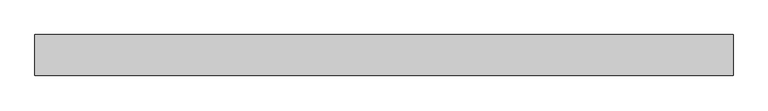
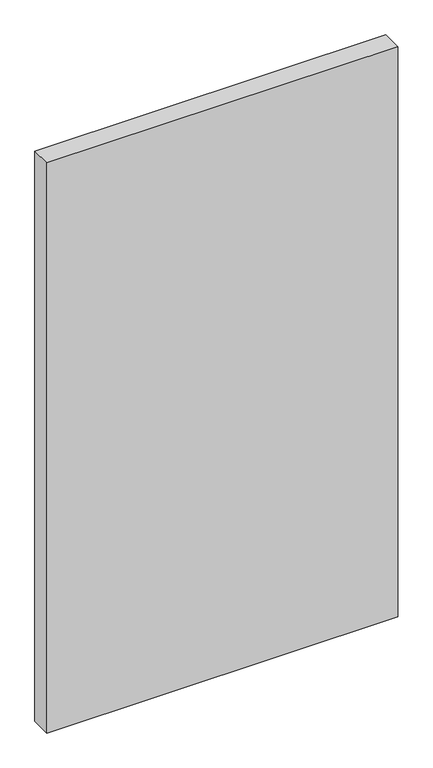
"""IFC4 building model written with IfcOpenShell, lengths in millimetres: plate geometry, Пустая системная панель : Пустая системная панель."""

import ifcopenshell
import ifcopenshell.guid

model = None  # the IFC model being written
_history = None  # IfcOwnerHistory: only IFC2X3 demands one
_inside = {}  # id of a spatial element -> (the spatial element, [elements in it])
_under = {}  # id of a project, library or spatial element -> (it, [spatial elements below it])
_declared = {}  # id of a project -> (the project, [libraries it declares])
_typed = {}  # id of a type object -> (the type object, [elements of that type])
_made_of = {}  # id of a material, layer set ... -> (it, [elements and type objects made of it])


def new_model(schema):
    """Start an empty IFC model of exactly this schema.

    Asked for "IFC4X3", IfcOpenShell would pick the latest addendum, in which some entities
    have other attributes; the version numbers below select the first issue.
    IFC2X3 requires an IfcOwnerHistory on every rooted entity: one is made here for all.
    """
    global model, _history
    if schema == "IFC4X3":
        model = ifcopenshell.file(schema_version=(4, 3, 0, 0))
    else:
        model = ifcopenshell.file(schema=schema)
    _inside.clear()
    _under.clear()
    _declared.clear()
    _typed.clear()
    _made_of.clear()
    _history = None
    if model.schema == "IFC2X3":
        org = make("IfcOrganization", Name="unknown")
        user = make(
            "IfcPersonAndOrganization",
            ThePerson=make("IfcPerson", FamilyName="unknown"),
            TheOrganization=org,
        )
        app = make(
            "IfcApplication",
            ApplicationDeveloper=org,
            Version="unknown",
            ApplicationFullName="unknown",
            ApplicationIdentifier="unknown",
        )
        _history = make(
            "IfcOwnerHistory",
            OwningUser=user,
            OwningApplication=app,
            ChangeAction="ADDED",
            CreationDate=0,
        )
    return model


def make(cls, **values):
    """One entity of the class cls with the attributes given. An attribute that is None is left unset."""
    return model.create_entity(
        cls, **{name: value for name, value in values.items() if value is not None}
    )


def rooted(cls, **values):
    """An entity with a GlobalId (a new one), such as an element, a storey or a relation."""
    return make(cls, GlobalId=ifcopenshell.guid.new(), OwnerHistory=_history, **values)


def si_unit(unit_type, name, prefix=None):
    """IfcSIUnit, for example si_unit("LENGTHUNIT", "METRE", prefix="MILLI")."""
    return make("IfcSIUnit", UnitType=unit_type, Prefix=prefix, Name=name)


def assignment(units):
    """IfcUnitAssignment: the units of a project."""
    return None if units is None else make("IfcUnitAssignment", Units=units)


def point(xyz):
    """IfcCartesianPoint."""
    return None if xyz is None else make("IfcCartesianPoint", Coordinates=xyz)


def direction(xyz):
    """IfcDirection."""
    return None if xyz is None else make("IfcDirection", DirectionRatios=xyz)


def frame(location, z_axis=None, x_axis=None):
    """IfcAxis2Placement3D, a coordinate frame: its origin and axes. An axis left out is left unset."""
    return make(
        "IfcAxis2Placement3D",
        Location=point(location),
        Axis=direction(z_axis),
        RefDirection=direction(x_axis),
    )


def origin():
    """The frame at (0, 0, 0) with its axes left unset."""
    return frame((0.0, 0.0, 0.0))


def origin_with_axes():
    """The frame at (0, 0, 0) with the z axis (0, 0, 1) and the x axis (1, 0, 0) written out."""
    return frame((0.0, 0.0, 0.0), z_axis=(0.0, 0.0, 1.0), x_axis=(1.0, 0.0, 0.0))


def place(relative_to, where):
    """IfcLocalPlacement: puts the frame where relative to a parent placement (None: the world)."""
    return make(
        "IfcLocalPlacement", PlacementRelTo=relative_to, RelativePlacement=where
    )


def context(
    kind, dimensions, precision=None, world=None, true_north=None, identifier=None
):
    """IfcGeometricRepresentationContext, for example the 3D "Model" context."""
    return make(
        "IfcGeometricRepresentationContext",
        ContextIdentifier=identifier,
        ContextType=kind,
        CoordinateSpaceDimension=dimensions,
        Precision=precision,
        WorldCoordinateSystem=world,
        TrueNorth=true_north,
    )


def project(units=None, contexts=None):
    """IfcProject with its units and contexts."""
    return rooted(
        "IfcProject",
        Name="project",
        RepresentationContexts=contexts,
        UnitsInContext=assignment(units),
    )


def spatial(cls, under=None, at=None, **own):
    """A site, building, storey or space (cls), placed at a placement, below another one or the project."""
    s = rooted(cls, ObjectPlacement=at, **own)
    if under is not None:
        _under.setdefault(under.id(), (under, []))[1].append(s)
    return s


def polyline(points):
    """IfcPolyline through the points."""
    return make("IfcPolyline", Points=[point(p) for p in points])


def outline(outer, holes=None, kind="AREA"):
    """IfcArbitraryClosedProfileDef: a profile drawn as a closed curve; with holes, ...WithVoids."""
    if holes is None:
        return make("IfcArbitraryClosedProfileDef", ProfileType=kind, OuterCurve=outer)
    return make(
        "IfcArbitraryProfileDefWithVoids",
        ProfileType=kind,
        OuterCurve=outer,
        InnerCurves=holes,
    )


def extrude(swept, where, along, depth):
    """IfcExtrudedAreaSolid: the profile swept, set in the frame where, extruded along a direction by depth."""
    return make(
        "IfcExtrudedAreaSolid",
        SweptArea=swept,
        Position=where,
        ExtrudedDirection=direction(along),
        Depth=depth,
    )


def shape(context_of_items, identifier, shape_type, items):
    """IfcShapeRepresentation: the items that make up one representation, for example the "Body"."""
    return make(
        "IfcShapeRepresentation",
        ContextOfItems=context_of_items,
        RepresentationIdentifier=identifier,
        RepresentationType=shape_type,
        Items=items,
    )


def source(mapping_origin, context_of_items, identifier, shape_type, items):
    """IfcRepresentationMap: a shape defined once, which mapped items show again and again."""
    return make(
        "IfcRepresentationMap",
        MappingOrigin=mapping_origin,
        MappedRepresentation=shape(context_of_items, identifier, shape_type, items),
    )


def transform(
    local_origin,
    x_axis=None,
    y_axis=None,
    z_axis=None,
    scale=None,
    scale2=None,
    scale3=None,
    uniform=True,
):
    """IfcCartesianTransformationOperator3D, or its non-uniform kind. x_axis, y_axis, z_axis: its Axis1, 2, 3."""
    if uniform:
        return make(
            "IfcCartesianTransformationOperator3D",
            Axis1=direction(x_axis),
            Axis2=direction(y_axis),
            LocalOrigin=point(local_origin),
            Scale=scale,
            Axis3=direction(z_axis),
        )
    return make(
        "IfcCartesianTransformationOperator3DnonUniform",
        Axis1=direction(x_axis),
        Axis2=direction(y_axis),
        LocalOrigin=point(local_origin),
        Scale=scale,
        Axis3=direction(z_axis),
        Scale2=scale2,
        Scale3=scale3,
    )


def mapped(mapping_source, mapping_target):
    """IfcMappedItem: shows the shape of a source again, moved by a transform."""
    return make(
        "IfcMappedItem", MappingSource=mapping_source, MappingTarget=mapping_target
    )


def made_of(thing, what):
    """Note that an element or type object is made of a material, layer set ...; save() writes the relation."""
    if what is not None:
        _made_of.setdefault(what.id(), (what, []))[1].append(thing)
    return thing


def element(
    cls,
    number,
    at=None,
    inside=None,
    cuts=None,
    type_object=None,
    material=None,
    context=None,
    identifier="Body",
    shape_type=None,
    held_by="IfcProductDefinitionShape",
    body=None,
    shapes=None,
    **own,
):
    """One element of the class cls, such as IfcWall. Its Tag is "e" and its number.

    at: its placement. inside: the storey or other place that contains it. cuts: it is an
    opening in that element (IfcRelVoidsElement). A single representation is given by context,
    identifier, shape_type and body (its items); several are given by shapes. held_by: the class
    of the entity that holds the representations. save() writes the other relations.
    """
    e = rooted(cls, Tag="e%d" % number, ObjectPlacement=at, **own)
    if body is not None:
        shapes = [shape(context, identifier, shape_type, body)]
    if shapes is not None:
        e.Representation = make(held_by, Representations=shapes)
    if inside is not None:
        _inside.setdefault(inside.id(), (inside, []))[1].append(e)
    if cuts is not None:
        rooted(
            "IfcRelVoidsElement", RelatingBuildingElement=cuts, RelatedOpeningElement=e
        )
    if type_object is not None:
        _typed.setdefault(type_object.id(), (type_object, []))[1].append(e)
    return made_of(e, material)


def aggregate(whole, parts):
    """IfcRelAggregates: a whole, such as a stair, and the parts it consists of."""
    return rooted("IfcRelAggregates", RelatingObject=whole, RelatedObjects=parts)


def save(model, path):
    """Write the relations noted so far, then the file.

    IfcRelAggregates (storeys below a building ...), IfcRelContainedInSpatialStructure (elements
    in a storey), IfcRelDefinesByType, IfcRelAssociatesMaterial and IfcRelDeclares: one each for
    every whole, place, type object, material and project.
    """
    for whole, parts in _under.values():
        aggregate(whole, parts)
    for where, things in _inside.values():
        rooted(
            "IfcRelContainedInSpatialStructure",
            RelatedElements=things,
            RelatingStructure=where,
        )
    for kind, things in _typed.values():
        rooted("IfcRelDefinesByType", RelatedObjects=things, RelatingType=kind)
    for what, things in _made_of.values():
        rooted("IfcRelAssociatesMaterial", RelatedObjects=things, RelatingMaterial=what)
    for by, libraries in _declared.values():
        rooted("IfcRelDeclares", RelatingContext=by, RelatedDefinitions=libraries)
    model.write(path)


def plate_872880df(model_context):
    return source(origin(), model_context, "Body", "SweptSolid", [
        extrude(outline(polyline([(850.0, -50.0), (-850.0, -50.0), (-850.0, 50.0), (850.0, 50.0), (850.0, -50.0)])), origin_with_axes(), (0.0, 0.0, 1.0), 2920.0),
    ])


if __name__ == "__main__":
    model = new_model("IFC4")
    model_context = context("Model", 3, world=origin())
    ifc_project = project(units=[si_unit("LENGTHUNIT", "METRE", prefix="MILLI")], contexts=[model_context])
    site = spatial("IfcSite", under=ifc_project)
    building = spatial("IfcBuilding", under=site)
    placement = place(None, origin())
    plate_shape = plate_872880df(model_context)
    element("IfcPlate", 1, ObjectType="Пустая системная панель : Пустая системная панель", at=placement, inside=building, context=model_context, shape_type="MappedRepresentation", body=[
        mapped(plate_shape, transform((0.0, 0.0, 0.0), x_axis=(1.0, 0.0, 0.0), y_axis=(0.0, 1.0, 0.0), z_axis=(0.0, 0.0, 1.0))),
    ])
    save(model, "model.ifc")
